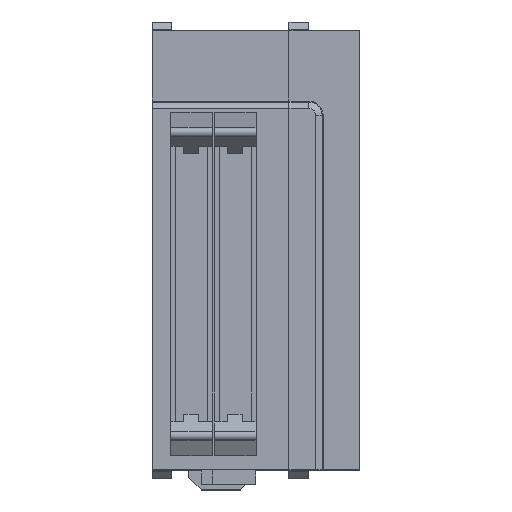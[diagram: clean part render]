
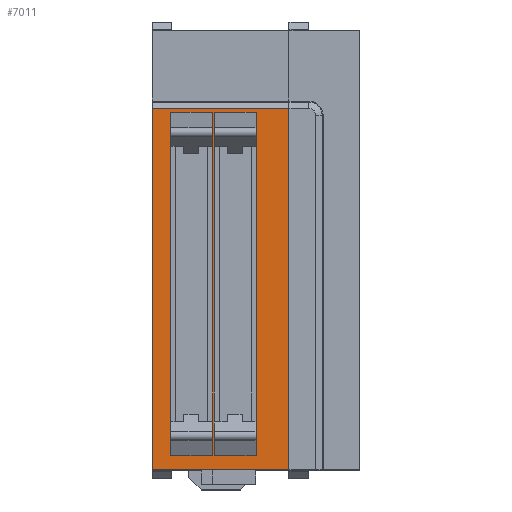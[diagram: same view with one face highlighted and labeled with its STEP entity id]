
A CAD part, top view. The second image highlights one B-rep face of the part: STEP entity #7011.
In plain terms, the highlighted planar face has unit normal (0, 0, 1).
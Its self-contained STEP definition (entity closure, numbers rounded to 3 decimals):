
#6976 = EDGE_LOOP ( 'NONE', ( #6977, #6979, #7063, #7008 ) ) ;
#6977 = ORIENTED_EDGE ( 'NONE', *, *, #7062, .T. ) ;
#6979 = ORIENTED_EDGE ( 'NONE', *, *, #6980, .T. ) ;
#6980 = EDGE_CURVE ( 'NONE', #6982, #7006, #20908, .T. ) ;
#6981 = VERTEX_POINT ( 'NONE', #20904 ) ;
#6982 = VERTEX_POINT ( 'NONE', #20909 ) ;
#6983 = VERTEX_POINT ( 'NONE', #20898 ) ;
#6984 = ORIENTED_EDGE ( 'NONE', *, *, #7015, .T. ) ;
#6985 = EDGE_CURVE ( 'NONE', #7013, #7009, #20903, .T. ) ;
#6986 = VERTEX_POINT ( 'NONE', #20897 ) ;
#6987 = EDGE_CURVE ( 'NONE', #7017, #7013, #20896, .T. ) ;
#6988 = EDGE_CURVE ( 'NONE', #6986, #6983, #20889, .T. ) ;
#6989 = ORIENTED_EDGE ( 'NONE', *, *, #7061, .T. ) ;
#6990 = ORIENTED_EDGE ( 'NONE', *, *, #6987, .F. ) ;
#6991 = EDGE_LOOP ( 'NONE', ( #6992, #6993, #7000, #6989 ) ) ;
#6992 = ORIENTED_EDGE ( 'NONE', *, *, #6988, .T. ) ;
#6993 = ORIENTED_EDGE ( 'NONE', *, *, #6994, .T. ) ;
#6994 = EDGE_CURVE ( 'NONE', #6983, #6996, #20890, .T. ) ;
#6995 = VERTEX_POINT ( 'NONE', #20942 ) ;
#6996 = VERTEX_POINT ( 'NONE', #20892 ) ;
#7000 = ORIENTED_EDGE ( 'NONE', *, *, #7060, .T. ) ;
#7001 = VERTEX_POINT ( 'NONE', #20941 ) ;
#7005 = EDGE_LOOP ( 'NONE', ( #7014, #6984, #7012, #6990 ) ) ;
#7006 = VERTEX_POINT ( 'NONE', #20934 ) ;
#7008 = ORIENTED_EDGE ( 'NONE', *, *, #7049, .F. ) ;
#7009 = VERTEX_POINT ( 'NONE', #20931 ) ;
#7011 = ADVANCED_FACE ( 'NONE', ( #20919, #20930, #20944 ), #20921, .T. ) ;
#7012 = ORIENTED_EDGE ( 'NONE', *, *, #6985, .F. ) ;
#7013 = VERTEX_POINT ( 'NONE', #20928 ) ;
#7014 = ORIENTED_EDGE ( 'NONE', *, *, #7016, .T. ) ;
#7015 = EDGE_CURVE ( 'NONE', #7001, #7009, #20922, .T. ) ;
#7016 = EDGE_CURVE ( 'NONE', #7017, #7001, #20976, .T. ) ;
#7017 = VERTEX_POINT ( 'NONE', #20929 ) ;
#7045 = EDGE_CURVE ( 'NONE', #7046, #7006, #20985, .T. ) ;
#7046 = VERTEX_POINT ( 'NONE', #20983 ) ;
#7049 = EDGE_CURVE ( 'NONE', #6981, #7046, #20982, .T. ) ;
#7060 = EDGE_CURVE ( 'NONE', #6996, #6995, #21021, .T. ) ;
#7061 = EDGE_CURVE ( 'NONE', #6995, #6986, #20753, .T. ) ;
#7062 = EDGE_CURVE ( 'NONE', #6981, #6982, #21079, .T. ) ;
#7063 = ORIENTED_EDGE ( 'NONE', *, *, #7045, .F. ) ;
#20751 = VECTOR ( 'NONE', #20758, 1000. ) ;
#20753 = LINE ( 'NONE', #20756, #20751 ) ;
#20756 = CARTESIAN_POINT ( 'NONE',  ( 14., -45., 80. ) ) ;
#20758 = DIRECTION ( 'NONE',  ( 1., 0., 0. ) ) ;
#20883 = DIRECTION ( 'NONE',  ( -1., 0., 0. ) ) ;
#20884 = VECTOR ( 'NONE', #20883, 1000. ) ;
#20885 = CARTESIAN_POINT ( 'NONE',  ( -14., 29., 80. ) ) ;
#20886 = DIRECTION ( 'NONE',  ( 0., 1., 0. ) ) ;
#20887 = VECTOR ( 'NONE', #20886, 1000. ) ;
#20888 = CARTESIAN_POINT ( 'NONE',  ( 14., -45., 80. ) ) ;
#20889 = LINE ( 'NONE', #20888, #20887 ) ;
#20890 = LINE ( 'NONE', #20885, #20884 ) ;
#20891 = VECTOR ( 'NONE', #20893, 1000. ) ;
#20892 = CARTESIAN_POINT ( 'NONE',  ( -14., 29., 80. ) ) ;
#20893 = DIRECTION ( 'NONE',  ( -1., 0., 0. ) ) ;
#20894 = CARTESIAN_POINT ( 'NONE',  ( -14., 28.15, 80. ) ) ;
#20895 = DIRECTION ( 'NONE',  ( 0., -1., 0. ) ) ;
#20896 = LINE ( 'NONE', #20894, #20891 ) ;
#20897 = CARTESIAN_POINT ( 'NONE',  ( 14., -45., 80. ) ) ;
#20898 = CARTESIAN_POINT ( 'NONE',  ( 14., 29., 80. ) ) ;
#20899 = DIRECTION ( 'NONE',  ( -1., 0., 0. ) ) ;
#20900 = VECTOR ( 'NONE', #20899, 1000. ) ;
#20901 = CARTESIAN_POINT ( 'NONE',  ( -14., -42.15, 80. ) ) ;
#20902 = CARTESIAN_POINT ( 'NONE',  ( -10.25, 45., 80. ) ) ;
#20903 = LINE ( 'NONE', #20902, #20910 ) ;
#20904 = CARTESIAN_POINT ( 'NONE',  ( 7.3, 28.15, 80. ) ) ;
#20908 = LINE ( 'NONE', #20901, #20900 ) ;
#20909 = CARTESIAN_POINT ( 'NONE',  ( 7.3, -42.15, 80. ) ) ;
#20910 = VECTOR ( 'NONE', #20895, 1000. ) ;
#20913 = DIRECTION ( 'NONE',  ( 1., 0., 0. ) ) ;
#20914 = DIRECTION ( 'NONE',  ( 0., 0., 1. ) ) ;
#20915 = CARTESIAN_POINT ( 'NONE',  ( -14., 45., 80. ) ) ;
#20916 = AXIS2_PLACEMENT_3D ( 'NONE', #20915, #20914, #20913 ) ;
#20919 = FACE_BOUND ( 'NONE', #7005, .T. ) ;
#20921 = PLANE ( 'NONE',  #20916 ) ;
#20922 = LINE ( 'NONE', #20979, #20978 ) ;
#20928 = CARTESIAN_POINT ( 'NONE',  ( -10.25, 28.15, 80. ) ) ;
#20929 = CARTESIAN_POINT ( 'NONE',  ( -1.65, 28.15, 80. ) ) ;
#20930 = FACE_OUTER_BOUND ( 'NONE', #6991, .T. ) ;
#20931 = CARTESIAN_POINT ( 'NONE',  ( -10.25, -42.15, 80. ) ) ;
#20934 = CARTESIAN_POINT ( 'NONE',  ( -1.3, -42.15, 80. ) ) ;
#20941 = CARTESIAN_POINT ( 'NONE',  ( -1.65, -42.15, 80. ) ) ;
#20942 = CARTESIAN_POINT ( 'NONE',  ( -14., -45., 80. ) ) ;
#20944 = FACE_BOUND ( 'NONE', #6976, .T. ) ;
#20973 = DIRECTION ( 'NONE',  ( 0., -1., 0. ) ) ;
#20974 = VECTOR ( 'NONE', #20973, 1000. ) ;
#20975 = CARTESIAN_POINT ( 'NONE',  ( -1.65, 45., 80. ) ) ;
#20976 = LINE ( 'NONE', #20975, #20974 ) ;
#20977 = DIRECTION ( 'NONE',  ( -1., 0., 0. ) ) ;
#20978 = VECTOR ( 'NONE', #20977, 1000. ) ;
#20979 = CARTESIAN_POINT ( 'NONE',  ( -14., -42.15, 80. ) ) ;
#20980 = VECTOR ( 'NONE', #21056, 1000. ) ;
#20981 = CARTESIAN_POINT ( 'NONE',  ( -1.3, 45., 80. ) ) ;
#20982 = LINE ( 'NONE', #21049, #21048 ) ;
#20983 = CARTESIAN_POINT ( 'NONE',  ( -1.3, 28.15, 80. ) ) ;
#20985 = LINE ( 'NONE', #20981, #20980 ) ;
#21017 = DIRECTION ( 'NONE',  ( 0., -1., 0. ) ) ;
#21019 = VECTOR ( 'NONE', #21017, 1000. ) ;
#21020 = CARTESIAN_POINT ( 'NONE',  ( -14., -45., 80. ) ) ;
#21021 = LINE ( 'NONE', #21020, #21019 ) ;
#21047 = DIRECTION ( 'NONE',  ( -1., 0., 0. ) ) ;
#21048 = VECTOR ( 'NONE', #21047, 1000. ) ;
#21049 = CARTESIAN_POINT ( 'NONE',  ( -14., 28.15, 80. ) ) ;
#21056 = DIRECTION ( 'NONE',  ( 0., -1., 0. ) ) ;
#21076 = DIRECTION ( 'NONE',  ( 0., -1., 0. ) ) ;
#21077 = VECTOR ( 'NONE', #21076, 1000. ) ;
#21078 = CARTESIAN_POINT ( 'NONE',  ( 7.3, 45., 80. ) ) ;
#21079 = LINE ( 'NONE', #21078, #21077 ) ;
